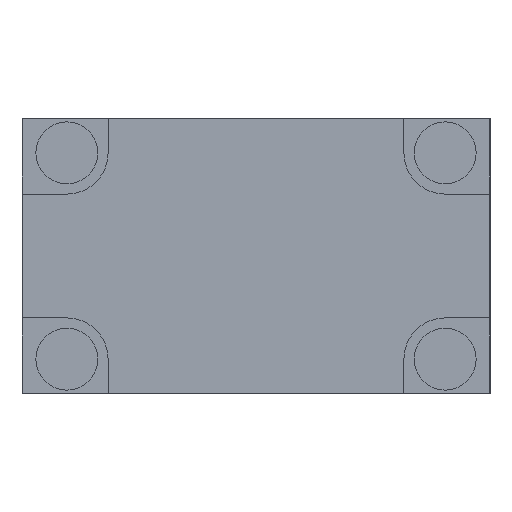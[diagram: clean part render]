
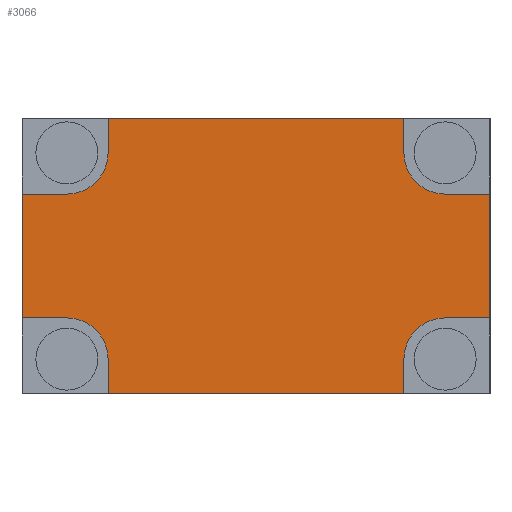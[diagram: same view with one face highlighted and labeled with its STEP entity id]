
A CAD part, front view. The second image highlights one B-rep face of the part: STEP entity #3066.
In plain terms, the highlighted planar face has unit normal (0, -1, 0).
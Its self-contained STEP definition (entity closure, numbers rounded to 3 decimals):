
#284=CARTESIAN_POINT('',(27.485,-63.,-14.985));
#285=DIRECTION('',(0.,-1.,0.));
#286=DIRECTION('',(0.,0.,1.));
#287=AXIS2_PLACEMENT_3D('',#284,#285,#286);
#289=DIRECTION('',(0.,0.,1.));
#290=VECTOR('',#289,5.);
#291=CARTESIAN_POINT('',(21.485,-63.,-19.985));
#292=LINE('10216',#291,#290);
#293=DIRECTION('',(1.,0.,0.));
#294=VECTOR('',#293,42.97);
#295=CARTESIAN_POINT('',(-21.485,-63.,-19.985));
#296=LINE('10729',#295,#294);
#297=DIRECTION('',(0.,0.,1.));
#298=VECTOR('',#297,5.);
#299=CARTESIAN_POINT('',(-21.485,-63.,-19.985));
#300=LINE('10222',#299,#298);
#301=CARTESIAN_POINT('',(-27.485,-63.,-14.985));
#302=DIRECTION('',(0.,-1.,0.));
#303=DIRECTION('',(1.,0.,0.));
#304=AXIS2_PLACEMENT_3D('',#301,#302,#303);
#306=DIRECTION('',(1.,0.,0.));
#307=VECTOR('',#306,6.5);
#308=CARTESIAN_POINT('',(-33.985,-63.,-8.985));
#309=LINE('10221',#308,#307);
#310=DIRECTION('',(0.,0.,-1.));
#311=VECTOR('',#310,17.97);
#312=CARTESIAN_POINT('',(-33.985,-63.,8.985));
#313=LINE('10732',#312,#311);
#314=DIRECTION('',(1.,0.,0.));
#315=VECTOR('',#314,6.5);
#316=CARTESIAN_POINT('',(-33.985,-63.,8.985));
#317=LINE('10226',#316,#315);
#318=CARTESIAN_POINT('',(-27.485,-63.,14.985));
#319=DIRECTION('',(0.,-1.,0.));
#320=DIRECTION('',(0.,0.,-1.));
#321=AXIS2_PLACEMENT_3D('',#318,#319,#320);
#323=DIRECTION('',(0.,0.,-1.));
#324=VECTOR('',#323,5.);
#325=CARTESIAN_POINT('',(-21.485,-63.,19.985));
#326=LINE('10225',#325,#324);
#327=DIRECTION('',(-1.,0.,0.));
#328=VECTOR('',#327,42.97);
#329=CARTESIAN_POINT('',(21.485,-63.,19.985));
#330=LINE('10731',#329,#328);
#331=DIRECTION('',(0.,0.,-1.));
#332=VECTOR('',#331,5.);
#333=CARTESIAN_POINT('',(21.485,-63.,19.985));
#334=LINE('10219',#333,#332);
#335=CARTESIAN_POINT('',(27.485,-63.,14.985));
#336=DIRECTION('',(0.,-1.,0.));
#337=DIRECTION('',(-1.,0.,0.));
#338=AXIS2_PLACEMENT_3D('',#335,#336,#337);
#340=DIRECTION('',(-1.,0.,0.));
#341=VECTOR('',#340,6.5);
#342=CARTESIAN_POINT('',(33.985,-63.,8.985));
#343=LINE('10218',#342,#341);
#344=DIRECTION('',(0.,0.,1.));
#345=VECTOR('',#344,17.97);
#346=CARTESIAN_POINT('',(33.985,-63.,-8.985));
#347=LINE('10730',#346,#345);
#348=DIRECTION('',(-1.,0.,0.));
#349=VECTOR('',#348,6.5);
#350=CARTESIAN_POINT('',(33.985,-63.,-8.985));
#351=LINE('10217',#350,#349);
#2125=CARTESIAN_POINT('',(27.485,-63.,-8.985));
#2126=CARTESIAN_POINT('',(21.485,-63.,-14.985));
#2127=VERTEX_POINT('',#2125);
#2128=VERTEX_POINT('',#2126);
#2129=CARTESIAN_POINT('',(21.485,-63.,-19.985));
#2130=VERTEX_POINT('',#2129);
#2131=CARTESIAN_POINT('',(33.985,-63.,-8.985));
#2132=VERTEX_POINT('',#2131);
#2133=CARTESIAN_POINT('',(33.985,-63.,8.985));
#2134=CARTESIAN_POINT('',(27.485,-63.,8.985));
#2135=VERTEX_POINT('',#2133);
#2136=VERTEX_POINT('',#2134);
#2137=CARTESIAN_POINT('',(21.485,-63.,19.985));
#2138=CARTESIAN_POINT('',(21.485,-63.,14.985));
#2139=VERTEX_POINT('',#2137);
#2140=VERTEX_POINT('',#2138);
#2141=CARTESIAN_POINT('',(-33.985,-63.,-8.985));
#2142=CARTESIAN_POINT('',(-27.485,-63.,-8.985));
#2143=VERTEX_POINT('',#2141);
#2144=VERTEX_POINT('',#2142);
#2145=CARTESIAN_POINT('',(-21.485,-63.,-19.985));
#2146=CARTESIAN_POINT('',(-21.485,-63.,-14.985));
#2147=VERTEX_POINT('',#2145);
#2148=VERTEX_POINT('',#2146);
#2149=CARTESIAN_POINT('',(-27.485,-63.,8.985));
#2150=CARTESIAN_POINT('',(-21.485,-63.,14.985));
#2151=VERTEX_POINT('',#2149);
#2152=VERTEX_POINT('',#2150);
#2153=CARTESIAN_POINT('',(-21.485,-63.,19.985));
#2154=VERTEX_POINT('',#2153);
#2155=CARTESIAN_POINT('',(-33.985,-63.,8.985));
#2156=VERTEX_POINT('',#2155);
#3029=CARTESIAN_POINT('',(0.,-63.,-20.));
#3030=DIRECTION('',(0.,-1.,0.));
#3031=DIRECTION('',(0.,0.,1.));
#3032=AXIS2_PLACEMENT_3D('',#3029,#3030,#3031);
#3033=PLANE('10103',#3032);
#3035=ORIENTED_EDGE('10215',*,*,#3034,.T.);
#3036=ORIENTED_EDGE('10216',*,*,#3020,.F.);
#3037=ORIENTED_EDGE('10729',*,*,#2907,.F.);
#3039=ORIENTED_EDGE('10222',*,*,#3038,.T.);
#3041=ORIENTED_EDGE('10223',*,*,#3040,.T.);
#3043=ORIENTED_EDGE('10221',*,*,#3042,.F.);
#3045=ORIENTED_EDGE('10732',*,*,#3044,.F.);
#3047=ORIENTED_EDGE('10226',*,*,#3046,.T.);
#3049=ORIENTED_EDGE('10224',*,*,#3048,.T.);
#3051=ORIENTED_EDGE('10225',*,*,#3050,.F.);
#3053=ORIENTED_EDGE('10731',*,*,#3052,.F.);
#3055=ORIENTED_EDGE('10219',*,*,#3054,.T.);
#3057=ORIENTED_EDGE('10220',*,*,#3056,.T.);
#3059=ORIENTED_EDGE('10218',*,*,#3058,.F.);
#3061=ORIENTED_EDGE('10730',*,*,#3060,.F.);
#3063=ORIENTED_EDGE('10217',*,*,#3062,.T.);
#3064=EDGE_LOOP('10103',(#3035,#3036,#3037,#3039,#3041,#3043,#3045,#3047,#3049,
#3051,#3053,#3055,#3057,#3059,#3061,#3063));
#3065=FACE_OUTER_BOUND('10103',#3064,.F.);
#3066=ADVANCED_FACE('10103',(#3065),#3033,.T.);
#288=CIRCLE('10215',#287,6.);
#305=CIRCLE('10223',#304,6.);
#322=CIRCLE('10224',#321,6.);
#339=CIRCLE('10220',#338,6.);
#2907=EDGE_CURVE('10729',#2147,#2130,#296,.T.);
#3020=EDGE_CURVE('10216',#2130,#2128,#292,.T.);
#3034=EDGE_CURVE('10215',#2127,#2128,#288,.T.);
#3038=EDGE_CURVE('10222',#2147,#2148,#300,.T.);
#3040=EDGE_CURVE('10223',#2148,#2144,#305,.T.);
#3042=EDGE_CURVE('10221',#2143,#2144,#309,.T.);
#3044=EDGE_CURVE('10732',#2156,#2143,#313,.T.);
#3046=EDGE_CURVE('10226',#2156,#2151,#317,.T.);
#3048=EDGE_CURVE('10224',#2151,#2152,#322,.T.);
#3050=EDGE_CURVE('10225',#2154,#2152,#326,.T.);
#3052=EDGE_CURVE('10731',#2139,#2154,#330,.T.);
#3054=EDGE_CURVE('10219',#2139,#2140,#334,.T.);
#3056=EDGE_CURVE('10220',#2140,#2136,#339,.T.);
#3058=EDGE_CURVE('10218',#2135,#2136,#343,.T.);
#3060=EDGE_CURVE('10730',#2132,#2135,#347,.T.);
#3062=EDGE_CURVE('10217',#2132,#2127,#351,.T.);
